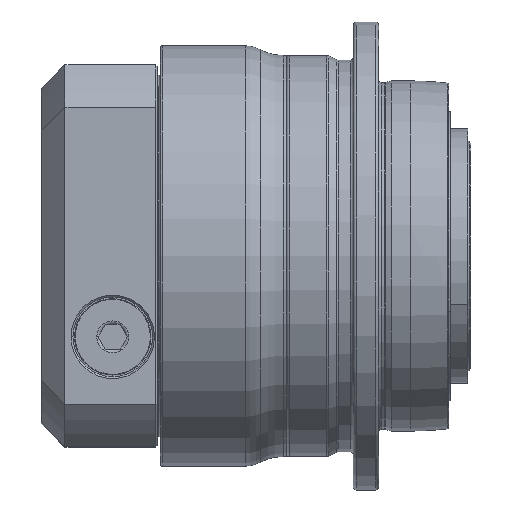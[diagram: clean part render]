
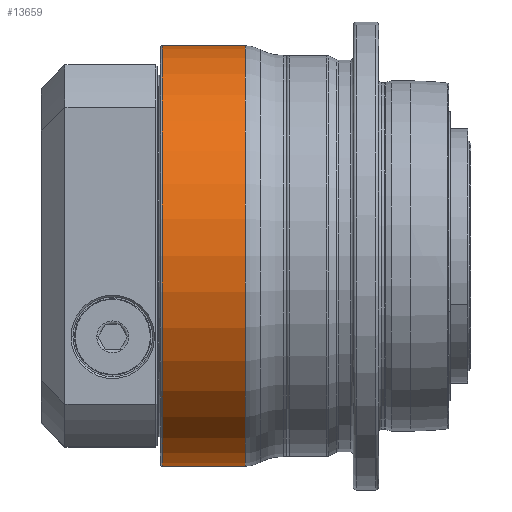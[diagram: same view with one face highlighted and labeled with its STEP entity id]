
A CAD part, top view. The second image highlights one B-rep face of the part: STEP entity #13659.
In plain terms, the highlighted cylindrical face has radius 66 mm (diameter 132 mm), a partial arc.
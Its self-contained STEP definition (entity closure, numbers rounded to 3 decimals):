
#12731=DIRECTION('',(-1.,0.,0.));
#12732=VECTOR('',#12731,26.126);
#12733=CARTESIAN_POINT('',(-1.,66.,0.));
#12734=LINE('',#12733,#12732);
#12740=DIRECTION('',(-1.,0.,0.));
#12741=VECTOR('',#12740,26.126);
#12742=CARTESIAN_POINT('',(-1.,-66.,0.));
#12743=LINE('',#12742,#12741);
#12754=CARTESIAN_POINT('',(-1.,0.,0.));
#12755=DIRECTION('',(-1.,0.,0.));
#12756=DIRECTION('',(0.,-1.,0.));
#12757=AXIS2_PLACEMENT_3D('',#12754,#12755,#12756);
#12759=CARTESIAN_POINT('',(-27.126,0.,0.));
#12760=DIRECTION('',(1.,0.,0.));
#12761=DIRECTION('',(0.,1.,0.));
#12762=AXIS2_PLACEMENT_3D('',#12759,#12760,#12761);
#12997=CARTESIAN_POINT('',(-1.,-66.,0.));
#12998=CARTESIAN_POINT('',(-1.,66.,0.));
#12999=VERTEX_POINT('',#12997);
#13000=VERTEX_POINT('',#12998);
#13079=CARTESIAN_POINT('',(-27.126,66.,0.));
#13080=CARTESIAN_POINT('',(-27.126,-66.,0.));
#13081=VERTEX_POINT('',#13079);
#13082=VERTEX_POINT('',#13080);
#13647=CARTESIAN_POINT('',(-42.,0.,0.));
#13648=DIRECTION('',(1.,0.,0.));
#13649=DIRECTION('',(0.,-1.,0.));
#13650=AXIS2_PLACEMENT_3D('',#13647,#13648,#13649);
#13651=CYLINDRICAL_SURFACE('',#13650,66.);
#13652=ORIENTED_EDGE('',*,*,#13638,.F.);
#13653=ORIENTED_EDGE('',*,*,#13613,.T.);
#13655=ORIENTED_EDGE('',*,*,#13654,.F.);
#13656=ORIENTED_EDGE('',*,*,#13610,.F.);
#13657=EDGE_LOOP('',(#13652,#13653,#13655,#13656));
#13658=FACE_OUTER_BOUND('',#13657,.F.);
#13659=ADVANCED_FACE('',(#13658),#13651,.T.);
#12758=CIRCLE('',#12757,66.);
#12763=CIRCLE('',#12762,66.);
#13610=EDGE_CURVE('',#13000,#13081,#12734,.T.);
#13613=EDGE_CURVE('',#12999,#13082,#12743,.T.);
#13638=EDGE_CURVE('',#12999,#13000,#12758,.T.);
#13654=EDGE_CURVE('',#13081,#13082,#12763,.T.);
